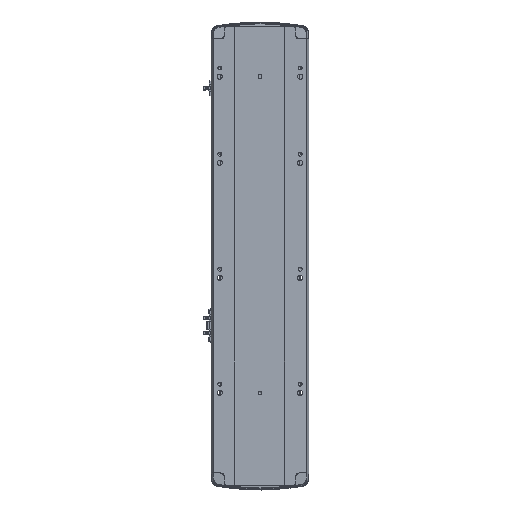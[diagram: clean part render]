
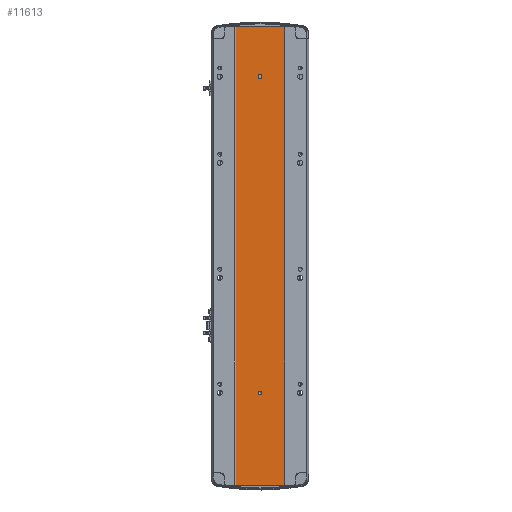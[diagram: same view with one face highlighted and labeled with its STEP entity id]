
A CAD part, top view. The second image highlights one B-rep face of the part: STEP entity #11613.
In plain terms, the highlighted planar face has unit normal (0, 0, 1).
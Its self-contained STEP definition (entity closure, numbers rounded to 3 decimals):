
#31 = EDGE_LOOP ( 'NONE', ( #37151, #7064, #36432, #39087 ) ) ;
#86 = DIRECTION ( 'NONE',  ( 0., 0., 1. ) ) ;
#89 = VERTEX_POINT ( 'NONE', #7038 ) ;
#1188 = VECTOR ( 'NONE', #29843, 1000. ) ;
#1818 = FACE_BOUND ( 'NONE', #3711, .T. ) ;
#2193 = DIRECTION ( 'NONE',  ( 0., -1., 0. ) ) ;
#2323 = VERTEX_POINT ( 'NONE', #21821 ) ;
#2585 = EDGE_CURVE ( 'NONE', #24663, #89, #9224, .T. ) ;
#2598 = ORIENTED_EDGE ( 'NONE', *, *, #2585, .F. ) ;
#3510 = VECTOR ( 'NONE', #11548, 1000. ) ;
#3711 = EDGE_LOOP ( 'NONE', ( #25273, #41193 ) ) ;
#3763 = CARTESIAN_POINT ( 'NONE',  ( -3., 709.5, 44. ) ) ;
#3927 = AXIS2_PLACEMENT_3D ( 'NONE', #26847, #10062, #20677 ) ;
#4111 = DIRECTION ( 'NONE',  ( 1., 0., 0. ) ) ;
#4733 = EDGE_CURVE ( 'NONE', #14244, #2323, #31980, .T. ) ;
#4956 = EDGE_CURVE ( 'NONE', #32419, #38062, #25584, .T. ) ;
#5698 = CARTESIAN_POINT ( 'NONE',  ( 0., 160.5, 44. ) ) ;
#6234 = CARTESIAN_POINT ( 'NONE',  ( -42., 797., 44. ) ) ;
#6567 = EDGE_CURVE ( 'NONE', #15102, #2323, #38820, .T. ) ;
#7036 = CARTESIAN_POINT ( 'NONE',  ( 3., 160.5, 44. ) ) ;
#7038 = CARTESIAN_POINT ( 'NONE',  ( 3., 711.5, 44. ) ) ;
#7064 = ORIENTED_EDGE ( 'NONE', *, *, #4733, .F. ) ;
#8228 = CARTESIAN_POINT ( 'NONE',  ( -3., 711.5, 44. ) ) ;
#8591 = VECTOR ( 'NONE', #2193, 1000. ) ;
#9224 = LINE ( 'NONE', #11772, #25195 ) ;
#10062 = DIRECTION ( 'NONE',  ( 0., 0., -1. ) ) ;
#10417 = AXIS2_PLACEMENT_3D ( 'NONE', #5698, #39305, #36011 ) ;
#10557 = CARTESIAN_POINT ( 'NONE',  ( 0., 160.5, 44. ) ) ;
#10684 = CARTESIAN_POINT ( 'NONE',  ( 0., 709.5, 44. ) ) ;
#10778 = CIRCLE ( 'NONE', #13359, 3. ) ;
#11180 = EDGE_LOOP ( 'NONE', ( #15813, #30599, #2598, #33231 ) ) ;
#11548 = DIRECTION ( 'NONE',  ( 1., 0., 0. ) ) ;
#11613 = ADVANCED_FACE ( 'NONE', ( #1818, #21585, #11983 ), #23467, .F. ) ;
#11772 = CARTESIAN_POINT ( 'NONE',  ( 3., 711.5, 44. ) ) ;
#11983 = FACE_OUTER_BOUND ( 'NONE', #31, .T. ) ;
#12432 = LINE ( 'NONE', #6234, #1188 ) ;
#13359 = AXIS2_PLACEMENT_3D ( 'NONE', #29202, #15272, #43055 ) ;
#14244 = VERTEX_POINT ( 'NONE', #32131 ) ;
#14256 = DIRECTION ( 'NONE',  ( 1., 0., 0. ) ) ;
#14917 = DIRECTION ( 'NONE',  ( 0., 1., 0. ) ) ;
#15032 = VECTOR ( 'NONE', #18075, 1000. ) ;
#15102 = VERTEX_POINT ( 'NONE', #38484 ) ;
#15272 = DIRECTION ( 'NONE',  ( 0., 0., 1. ) ) ;
#15800 = CARTESIAN_POINT ( 'NONE',  ( 42., 797., 44. ) ) ;
#15813 = ORIENTED_EDGE ( 'NONE', *, *, #23614, .F. ) ;
#16486 = VECTOR ( 'NONE', #38370, 1000. ) ;
#17029 = CARTESIAN_POINT ( 'NONE',  ( 3., 709.5, 44. ) ) ;
#18075 = DIRECTION ( 'NONE',  ( 0., -1., 0. ) ) ;
#18873 = AXIS2_PLACEMENT_3D ( 'NONE', #10557, #86, #4111 ) ;
#20240 = EDGE_CURVE ( 'NONE', #42202, #14244, #33253, .T. ) ;
#20677 = DIRECTION ( 'NONE',  ( -1., 0., 0. ) ) ;
#20961 = CARTESIAN_POINT ( 'NONE',  ( -3., 160.5, 44. ) ) ;
#21585 = FACE_BOUND ( 'NONE', #11180, .T. ) ;
#21697 = EDGE_CURVE ( 'NONE', #29885, #24663, #40136, .T. ) ;
#21821 = CARTESIAN_POINT ( 'NONE',  ( 42., 0., 44. ) ) ;
#23467 = PLANE ( 'NONE',  #3927 ) ;
#23614 = EDGE_CURVE ( 'NONE', #38467, #29885, #38448, .T. ) ;
#24663 = VERTEX_POINT ( 'NONE', #17029 ) ;
#25195 = VECTOR ( 'NONE', #14917, 1000. ) ;
#25273 = ORIENTED_EDGE ( 'NONE', *, *, #43632, .F. ) ;
#25584 = CIRCLE ( 'NONE', #18873, 3. ) ;
#26847 = CARTESIAN_POINT ( 'NONE',  ( -42., 797., 44. ) ) ;
#26993 = CIRCLE ( 'NONE', #10417, 3. ) ;
#27615 = EDGE_CURVE ( 'NONE', #42202, #15102, #12432, .T. ) ;
#28084 = CARTESIAN_POINT ( 'NONE',  ( -42., 0., 44. ) ) ;
#29202 = CARTESIAN_POINT ( 'NONE',  ( 0., 711.5, 44. ) ) ;
#29843 = DIRECTION ( 'NONE',  ( 0., -1., 0. ) ) ;
#29885 = VERTEX_POINT ( 'NONE', #3763 ) ;
#30599 = ORIENTED_EDGE ( 'NONE', *, *, #33139, .F. ) ;
#31980 = LINE ( 'NONE', #15800, #8591 ) ;
#32131 = CARTESIAN_POINT ( 'NONE',  ( 42., 797., 44. ) ) ;
#32419 = VERTEX_POINT ( 'NONE', #20961 ) ;
#33139 = EDGE_CURVE ( 'NONE', #89, #38467, #10778, .T. ) ;
#33231 = ORIENTED_EDGE ( 'NONE', *, *, #21697, .F. ) ;
#33253 = LINE ( 'NONE', #38604, #3510 ) ;
#33281 = CARTESIAN_POINT ( 'NONE',  ( -3., 711.5, 44. ) ) ;
#36011 = DIRECTION ( 'NONE',  ( 1., 0., 0. ) ) ;
#36432 = ORIENTED_EDGE ( 'NONE', *, *, #20240, .F. ) ;
#37151 = ORIENTED_EDGE ( 'NONE', *, *, #6567, .T. ) ;
#37447 = DIRECTION ( 'NONE',  ( 0., 0., 1. ) ) ;
#38062 = VERTEX_POINT ( 'NONE', #7036 ) ;
#38370 = DIRECTION ( 'NONE',  ( 1., 0., 0. ) ) ;
#38448 = LINE ( 'NONE', #8228, #15032 ) ;
#38467 = VERTEX_POINT ( 'NONE', #33281 ) ;
#38484 = CARTESIAN_POINT ( 'NONE',  ( -42., 0., 44. ) ) ;
#38604 = CARTESIAN_POINT ( 'NONE',  ( -42., 797., 44. ) ) ;
#38820 = LINE ( 'NONE', #28084, #16486 ) ;
#39087 = ORIENTED_EDGE ( 'NONE', *, *, #27615, .T. ) ;
#39305 = DIRECTION ( 'NONE',  ( 0., 0., 1. ) ) ;
#40136 = CIRCLE ( 'NONE', #43110, 3. ) ;
#41081 = CARTESIAN_POINT ( 'NONE',  ( -42., 797., 44. ) ) ;
#41193 = ORIENTED_EDGE ( 'NONE', *, *, #4956, .F. ) ;
#42202 = VERTEX_POINT ( 'NONE', #41081 ) ;
#43055 = DIRECTION ( 'NONE',  ( 1., 0., 0. ) ) ;
#43110 = AXIS2_PLACEMENT_3D ( 'NONE', #10684, #37447, #14256 ) ;
#43632 = EDGE_CURVE ( 'NONE', #38062, #32419, #26993, .T. ) ;
